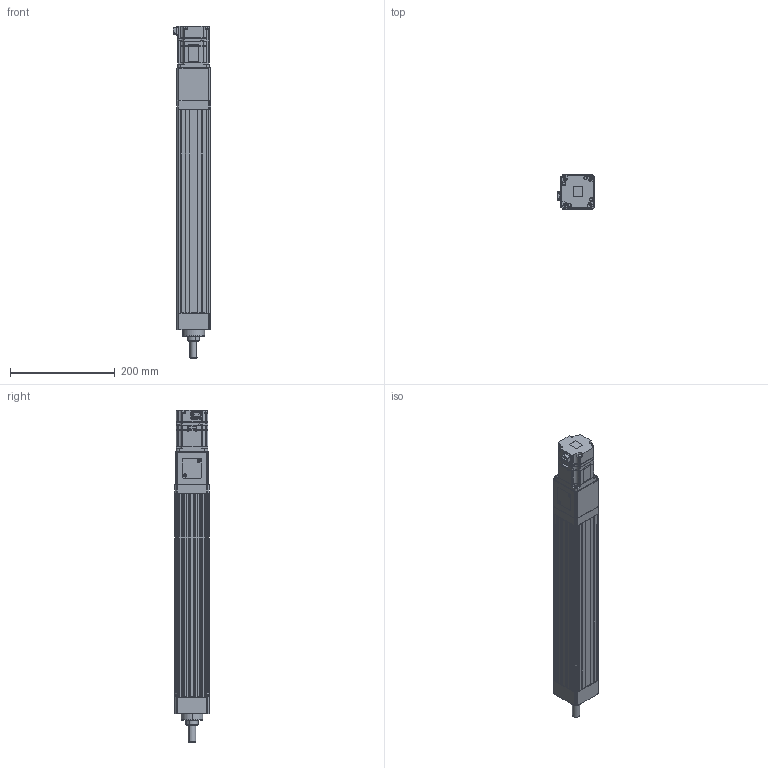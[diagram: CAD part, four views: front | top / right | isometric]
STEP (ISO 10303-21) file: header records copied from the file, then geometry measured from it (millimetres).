
FILE_DESCRIPTION (( 'STEP AP203' ), '1' );
FILE_NAME ('ANS065-S300-05(10)-W20-M.STEP', '2019-03-03T05:55:01', ( 'user' ), ( '' ), 'SwSTEP 2.0', 'SolidWorks 2013', '' );
FILE_SCHEMA (( 'CONFIG_CONTROL_DESIGN' ));
Length unit declared in the file: millimetre
Products named in the file (4): sgmjv_02a_a21; ANS065 ROD ST300-M; ANS065-S300-05(10)-W20-M; ANS065 S300 VER2
Assembly tree (3 placements, depth 2):
  ANS065-S300-05(10)-W20-M
    ANS065 S300 VER2
    sgmjv_02a_a21
    ANS065 ROD ST300-M
Bounding box: 71.3 x 65 x 634.6 mm (x, y, z)
Volume: 1499230.1 mm3; surface area: 361661.6 mm2
Topology: 3 solids, 7 shells, 1081 faces, 2861 edges, 1841 vertices
Faces by surface type: plane 637, cylinder 358, cone 86
Entity records: 33609 total; most frequent: CARTESIAN_POINT 5983, DIRECTION 5713, ORIENTED_EDGE 5674, EDGE_CURVE 2837, LINE 2007, VECTOR 2007, AXIS2_PLACEMENT_3D 1853, VERTEX_POINT 1841
